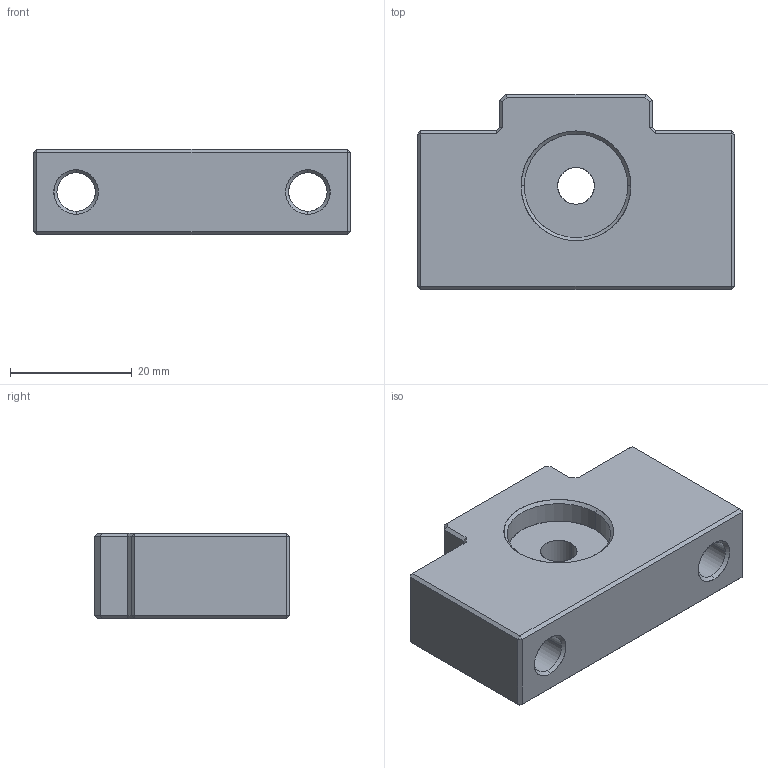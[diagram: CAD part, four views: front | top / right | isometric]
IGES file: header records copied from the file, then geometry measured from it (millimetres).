
Start section: SolidWorks IGES file using analytic representation for surfaces
Global section: file name: E:\同创达图纸\产品示意图\3D选型图\支撑座\EF系列\EF08.IGS; native system: SolidWorks 2012; preprocessor: SolidWorks 2012; author: gao; date: 130702.171258; units: millimetre
Bounding box: 52 x 32 x 14 mm (x, y, z)
Surface area: 6867.5 mm2 (no closed solid volume)
Topology: 0 solids, 0 shells, 80 faces, 782 edges, 780 vertices
Faces by surface type: bspline 54, revolution 26
